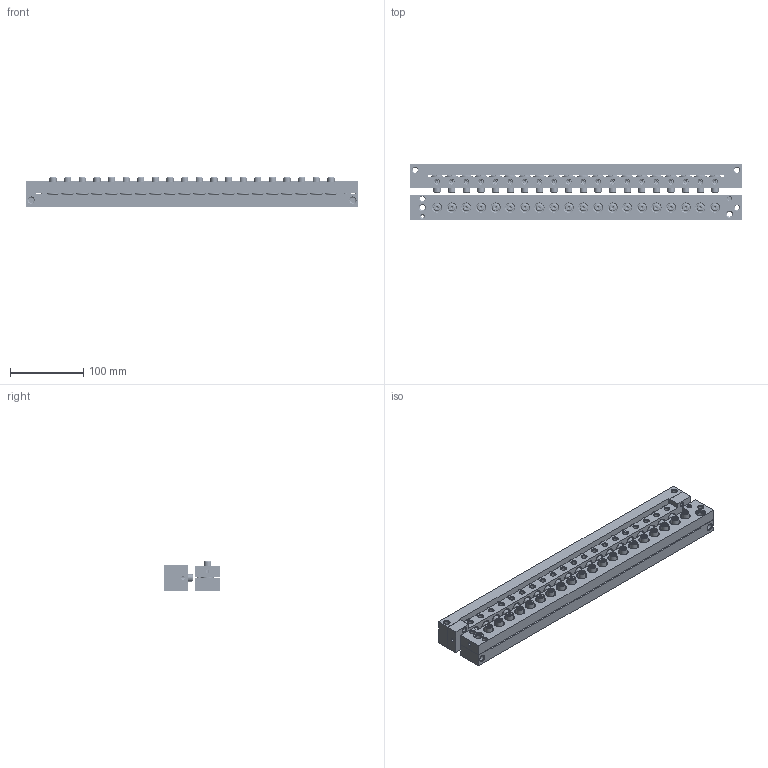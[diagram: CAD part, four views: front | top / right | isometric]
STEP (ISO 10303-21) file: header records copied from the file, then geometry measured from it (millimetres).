
FILE_DESCRIPTION( ( 'STEP AP214' ), '1' );
FILE_NAME( ' ', ' ', ( ' ' ), ( ' ' ), 'PSStep 11.0', 'VISI 17.0', ' ' );
FILE_SCHEMA( ( 'AUTOMOTIVE_DESIGN { 1 0 10303 214 1 1 1 1 }' ) );
Length unit declared in the file: millimetre
Products named in the file (46): 1; 2; 3; 4; 5; 6; 7; 8; 9; 10; 11; 12; 13; 14; 15; 16; 17; 18; 19; 20; 21; 22; 23; 24; 25; 26; 27; 28; 29; 30; 31; 32; 33; 34; 35; 36; 37; 38; 39; 40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
Bounding box: 454 x 77.7 x 40.2 mm (x, y, z)
Volume: 860502.9 mm3; surface area: 280294.5 mm2
Topology: 46 solids, 46 shells, 2042 faces, 5461 edges, 3553 vertices
Faces by surface type: plane 772, cylinder 576, cone 574, bspline 80, torus 40
Full cylindrical faces by diameter (mm): 3 x80, 3.5 x4, 5 x16, 6 x40, 6.5 x4, 6.8 x8, 8 x60, 8.75 x40, 10 x120, 12 x40, 14 x4, 17 x40
Entity records: 90061 total; most frequent: CARTESIAN_POINT 29212, DIRECTION 8454, ORIENTED_EDGE 8096, EDGE_CURVE 4048, AXIS2_PLACEMENT_3D 3598, EDGE_LOOP 3464, VERTEX_POINT 3174, FACE_OUTER_BOUND 2538
